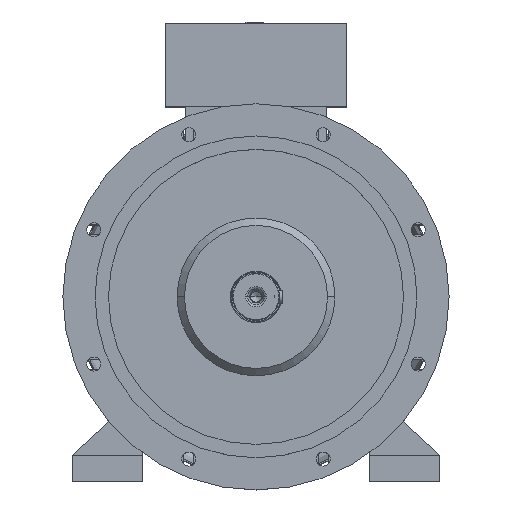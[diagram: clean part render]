
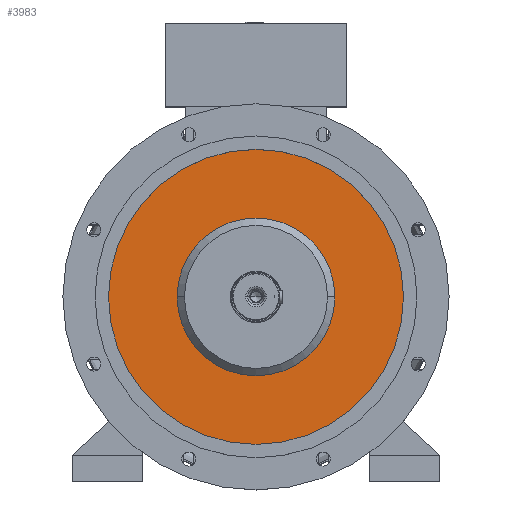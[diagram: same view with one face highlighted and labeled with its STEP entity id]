
A CAD part, top view. The second image highlights one B-rep face of the part: STEP entity #3983.
In plain terms, the highlighted planar face has unit normal (0, 0, 1).
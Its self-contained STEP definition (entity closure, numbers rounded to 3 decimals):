
#307 = AXIS2_PLACEMENT_3D ( 'NONE', #23609, #6733, #25571 ) ;
#350 = CARTESIAN_POINT ( 'NONE',  ( -252.083, 0., 455.4 ) ) ;
#476 = AXIS2_PLACEMENT_3D ( 'NONE', #940, #22079, #21890 ) ;
#602 = FACE_OUTER_BOUND ( 'NONE', #13120, .T. ) ;
#940 = CARTESIAN_POINT ( 'NONE',  ( 0., 0., 455.4 ) ) ;
#979 = EDGE_CURVE ( 'NONE', #15558, #3703, #1828, .T. ) ;
#1399 = CARTESIAN_POINT ( 'NONE',  ( 0., 0., 455.4 ) ) ;
#1828 = CIRCLE ( 'NONE', #476, 252.083 ) ;
#2219 = ORIENTED_EDGE ( 'NONE', *, *, #13212, .T. ) ;
#2301 = CIRCLE ( 'NONE', #11085, 134.8 ) ;
#3703 = VERTEX_POINT ( 'NONE', #350 ) ;
#3983 = ADVANCED_FACE ( 'NONE', ( #602, #16555 ), #13304, .T. ) ;
#4335 = CIRCLE ( 'NONE', #20066, 252.083 ) ;
#4581 = CARTESIAN_POINT ( 'NONE',  ( 252.083, 0., 455.4 ) ) ;
#5814 = DIRECTION ( 'NONE',  ( 1., 0., 0. ) ) ;
#6592 = EDGE_LOOP ( 'NONE', ( #7962, #2219 ) ) ;
#6733 = DIRECTION ( 'NONE',  ( 0., 0., -1. ) ) ;
#7962 = ORIENTED_EDGE ( 'NONE', *, *, #11078, .T. ) ;
#8017 = DIRECTION ( 'NONE',  ( 0., 0., 1. ) ) ;
#8093 = DIRECTION ( 'NONE',  ( -1., 0., 0. ) ) ;
#8127 = CARTESIAN_POINT ( 'NONE',  ( 0., 252.083, 455.4 ) ) ;
#11078 = EDGE_CURVE ( 'NONE', #18395, #19111, #21391, .T. ) ;
#11085 = AXIS2_PLACEMENT_3D ( 'NONE', #1399, #14205, #8093 ) ;
#12225 = EDGE_CURVE ( 'NONE', #3703, #15558, #4335, .T. ) ;
#13120 = EDGE_LOOP ( 'NONE', ( #21605, #17742 ) ) ;
#13212 = EDGE_CURVE ( 'NONE', #19111, #18395, #2301, .T. ) ;
#13304 = PLANE ( 'NONE',  #21168 ) ;
#14205 = DIRECTION ( 'NONE',  ( 0., 0., -1. ) ) ;
#15558 = VERTEX_POINT ( 'NONE', #4581 ) ;
#16555 = FACE_BOUND ( 'NONE', #6592, .T. ) ;
#17006 = CARTESIAN_POINT ( 'NONE',  ( 0., 0., 455.4 ) ) ;
#17742 = ORIENTED_EDGE ( 'NONE', *, *, #979, .T. ) ;
#18395 = VERTEX_POINT ( 'NONE', #25283 ) ;
#19111 = VERTEX_POINT ( 'NONE', #22058 ) ;
#20066 = AXIS2_PLACEMENT_3D ( 'NONE', #17006, #21265, #27432 ) ;
#21168 = AXIS2_PLACEMENT_3D ( 'NONE', #8127, #8017, #5814 ) ;
#21265 = DIRECTION ( 'NONE',  ( 0., 0., 1. ) ) ;
#21391 = CIRCLE ( 'NONE', #307, 134.8 ) ;
#21605 = ORIENTED_EDGE ( 'NONE', *, *, #12225, .T. ) ;
#21890 = DIRECTION ( 'NONE',  ( -1., 0., 0. ) ) ;
#22058 = CARTESIAN_POINT ( 'NONE',  ( 134.8, 0., 455.4 ) ) ;
#22079 = DIRECTION ( 'NONE',  ( 0., 0., 1. ) ) ;
#23609 = CARTESIAN_POINT ( 'NONE',  ( 0., 0., 455.4 ) ) ;
#25283 = CARTESIAN_POINT ( 'NONE',  ( -134.8, 0., 455.4 ) ) ;
#25571 = DIRECTION ( 'NONE',  ( -1., 0., 0. ) ) ;
#27432 = DIRECTION ( 'NONE',  ( -1., 0., 0. ) ) ;
